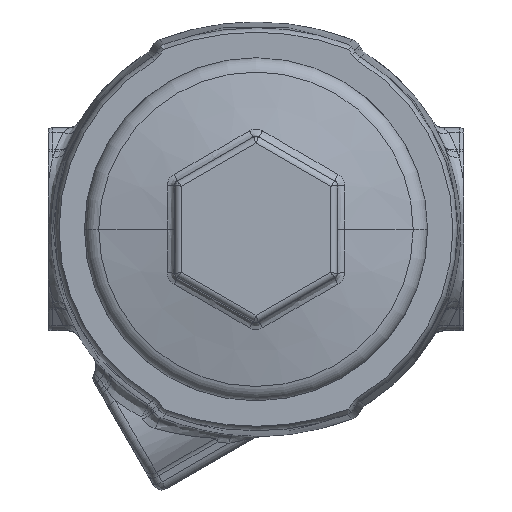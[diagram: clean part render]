
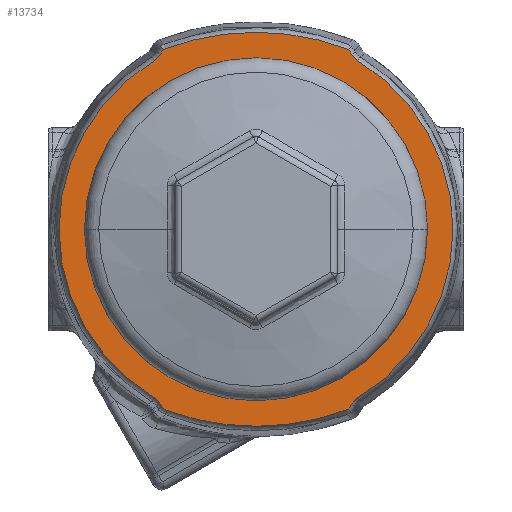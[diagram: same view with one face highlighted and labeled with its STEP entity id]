
A CAD part, front view. The second image highlights one B-rep face of the part: STEP entity #13734.
In plain terms, the highlighted planar face has unit normal (0, -1, 0).
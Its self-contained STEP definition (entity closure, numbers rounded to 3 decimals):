
#364=CARTESIAN_POINT('',(-21.171,-55.,38.775));
#365=CARTESIAN_POINT('',(-21.284,-55.,38.578));
#366=CARTESIAN_POINT('',(-21.539,-55.,38.211));
#367=CARTESIAN_POINT('',(-22.013,-55.,37.727));
#368=CARTESIAN_POINT('',(-22.375,-55.,37.464));
#369=CARTESIAN_POINT('',(-22.569,-55.,37.347));
#390=CARTESIAN_POINT('',(0.,-55.,0.));
#391=DIRECTION('',(0.,1.,0.));
#392=DIRECTION('',(0.517,0.,0.856));
#393=AXIS2_PLACEMENT_3D('',#390,#391,#392);
#398=DIRECTION('',(-0.499,0.,-0.867));
#399=VECTOR('',#398,1.237);
#400=CARTESIAN_POINT('',(21.171,-55.,-38.775));
#401=LINE('',#400,#399);
#405=CARTESIAN_POINT('',(0.,-55.,14.));
#406=DIRECTION('',(0.,1.,0.));
#407=DIRECTION('',(0.357,0.,-0.934));
#408=AXIS2_PLACEMENT_3D('',#405,#406,#407);
#413=CARTESIAN_POINT('',(0.,-55.,14.));
#414=DIRECTION('',(0.,1.,0.));
#415=DIRECTION('',(0.001,0.,-1.));
#416=AXIS2_PLACEMENT_3D('',#413,#414,#415);
#421=DIRECTION('',(-0.523,0.,0.852));
#422=VECTOR('',#421,0.554);
#423=CARTESIAN_POINT('',(-20.896,-55.,
-39.176));
#424=LINE('',#423,#422);
#428=CARTESIAN_POINT('',(0.,-55.,0.));
#429=DIRECTION('',(0.,1.,0.));
#430=DIRECTION('',(-0.516,0.,-0.856));
#431=AXIS2_PLACEMENT_3D('',#428,#429,#430);
#436=DIRECTION('',(0.499,0.,0.867));
#437=VECTOR('',#436,1.237);
#438=CARTESIAN_POINT('',(-21.171,-55.,38.775));
#439=LINE('',#438,#437);
#443=CARTESIAN_POINT('',(0.,-55.,-14.));
#444=DIRECTION('',(0.,1.,0.));
#445=DIRECTION('',(-0.357,0.,0.934));
#446=AXIS2_PLACEMENT_3D('',#443,#444,#445);
#451=CARTESIAN_POINT('',(0.,-55.,-14.));
#452=DIRECTION('',(0.,1.,0.));
#453=DIRECTION('',(0.001,0.,1.));
#454=AXIS2_PLACEMENT_3D('',#451,#452,#453);
#459=DIRECTION('',(0.499,0.,-0.867));
#460=VECTOR('',#459,1.237);
#461=CARTESIAN_POINT('',(20.554,-55.,39.847));
#462=LINE('',#461,#460);
#466=CARTESIAN_POINT('',(0.,-55.,0.));
#467=DIRECTION('',(0.,-1.,0.));
#468=DIRECTION('',(-1.,0.,0.));
#469=AXIS2_PLACEMENT_3D('',#466,#467,#468);
#474=CARTESIAN_POINT('',(0.,-55.,0.));
#475=DIRECTION('',(0.,-1.,0.));
#476=DIRECTION('',(1.,0.,0.));
#477=AXIS2_PLACEMENT_3D('',#474,#475,#476);
#506=CARTESIAN_POINT('',(22.569,-55.,37.347));
#507=CARTESIAN_POINT('',(22.375,-55.,37.464));
#508=CARTESIAN_POINT('',(22.013,-55.,37.727));
#509=CARTESIAN_POINT('',(21.539,-55.,38.211));
#510=CARTESIAN_POINT('',(21.284,-55.,38.578));
#511=CARTESIAN_POINT('',(21.171,-55.,38.775));
#3744=CARTESIAN_POINT('',(-22.529,-55.,
-37.371));
#3745=CARTESIAN_POINT('',(-22.345,-55.,
-37.482));
#3746=CARTESIAN_POINT('',(-22.002,-55.,
-37.728));
#3747=CARTESIAN_POINT('',(-21.547,-55.,
-38.18));
#3748=CARTESIAN_POINT('',(-21.298,-55.,
-38.521));
#3749=CARTESIAN_POINT('',(-21.186,-55.,
-38.704));
#3786=CARTESIAN_POINT('',(-20.896,-55.,
-39.176));
#3787=CARTESIAN_POINT('',(-20.8,-55.,
-39.331));
#3788=CARTESIAN_POINT('',(-20.582,-55.,
-39.612));
#3789=CARTESIAN_POINT('',(-20.16,-55.,
-39.956));
#3790=CARTESIAN_POINT('',(-19.841,-55.,
-40.114));
#3791=CARTESIAN_POINT('',(-19.669,-55.,
-40.177));
#3850=CARTESIAN_POINT('',(21.171,-55.,
-38.775));
#3851=CARTESIAN_POINT('',(21.284,-55.,
-38.579));
#3852=CARTESIAN_POINT('',(21.539,-55.,
-38.211));
#3853=CARTESIAN_POINT('',(22.013,-55.,
-37.727));
#3854=CARTESIAN_POINT('',(22.375,-55.,
-37.464));
#3855=CARTESIAN_POINT('',(22.569,-55.,
-37.347));
#12034=VERTEX_POINT('',#364);
#12035=VERTEX_POINT('',#369);
#12036=CARTESIAN_POINT('',(22.569,-55.,37.347));
#12037=CARTESIAN_POINT('',(22.569,-55.,-37.347));
#12038=VERTEX_POINT('',#12036);
#12039=VERTEX_POINT('',#12037);
#12040=VERTEX_POINT('',#3850);
#12041=CARTESIAN_POINT('',(20.554,-55.,
-39.847));
#12042=VERTEX_POINT('',#12041);
#12043=CARTESIAN_POINT('',(0.044,-55.,-43.637));
#12044=VERTEX_POINT('',#12043);
#12045=CARTESIAN_POINT('',(-19.669,-55.,-40.177));
#12046=VERTEX_POINT('',#12045);
#12047=VERTEX_POINT('',#3786);
#12048=CARTESIAN_POINT('',(-21.186,-55.,
-38.704));
#12049=VERTEX_POINT('',#12048);
#12050=VERTEX_POINT('',#3744);
#12051=CARTESIAN_POINT('',(-20.554,-55.,
39.847));
#12052=VERTEX_POINT('',#12051);
#12053=CARTESIAN_POINT('',(0.054,-55.,43.637));
#12054=VERTEX_POINT('',#12053);
#12055=CARTESIAN_POINT('',(20.554,-55.,39.847));
#12056=VERTEX_POINT('',#12055);
#12057=CARTESIAN_POINT('',(21.171,-55.,
38.775));
#12058=VERTEX_POINT('',#12057);
#12059=CARTESIAN_POINT('',(-37.5,-55.,0.));
#12060=CARTESIAN_POINT('',(37.5,-55.,0.));
#12061=VERTEX_POINT('',#12059);
#12062=VERTEX_POINT('',#12060);
#13692=CARTESIAN_POINT('',(0.,-55.,0.));
#13693=DIRECTION('',(0.,-1.,0.));
#13694=DIRECTION('',(-1.,0.,0.));
#13695=AXIS2_PLACEMENT_3D('',#13692,#13693,#13694);
#13696=PLANE('',#13695);
#13698=ORIENTED_EDGE('',*,*,#13697,.T.);
#13700=ORIENTED_EDGE('',*,*,#13699,.F.);
#13702=ORIENTED_EDGE('',*,*,#13701,.T.);
#13704=ORIENTED_EDGE('',*,*,#13703,.T.);
#13706=ORIENTED_EDGE('',*,*,#13705,.T.);
#13708=ORIENTED_EDGE('',*,*,#13707,.F.);
#13710=ORIENTED_EDGE('',*,*,#13709,.T.);
#13712=ORIENTED_EDGE('',*,*,#13711,.F.);
#13714=ORIENTED_EDGE('',*,*,#13713,.T.);
#13715=ORIENTED_EDGE('',*,*,#13675,.F.);
#13717=ORIENTED_EDGE('',*,*,#13716,.T.);
#13719=ORIENTED_EDGE('',*,*,#13718,.T.);
#13721=ORIENTED_EDGE('',*,*,#13720,.T.);
#13723=ORIENTED_EDGE('',*,*,#13722,.T.);
#13725=ORIENTED_EDGE('',*,*,#13724,.F.);
#13726=EDGE_LOOP('',(#13698,#13700,#13702,#13704,#13706,#13708,#13710,#13712,
#13714,#13715,#13717,#13719,#13721,#13723,#13725));
#13727=FACE_OUTER_BOUND('',#13726,.F.);
#13729=ORIENTED_EDGE('',*,*,#13728,.T.);
#13731=ORIENTED_EDGE('',*,*,#13730,.T.);
#13732=EDGE_LOOP('',(#13729,#13731));
#13733=FACE_BOUND('',#13732,.F.);
#370=B_SPLINE_CURVE_WITH_KNOTS('',3,(#364,#365,#366,#367,#368,#369),
.UNSPECIFIED.,.F.,.F.,(4,1,1,4),(0.,0.333,0.667,1.),
.UNSPECIFIED.);
#394=CIRCLE('',#393,43.637);
#409=CIRCLE('',#408,57.637);
#417=CIRCLE('',#416,57.637);
#432=CIRCLE('',#431,43.637);
#447=CIRCLE('',#446,57.637);
#455=CIRCLE('',#454,57.637);
#470=CIRCLE('',#469,37.5);
#478=CIRCLE('',#477,37.5);
#512=B_SPLINE_CURVE_WITH_KNOTS('',3,(#506,#507,#508,#509,#510,#511),
.UNSPECIFIED.,.F.,.F.,(4,1,1,4),(0.,0.333,0.667,1.),
.UNSPECIFIED.);
#3750=B_SPLINE_CURVE_WITH_KNOTS('',3,(#3744,#3745,#3746,#3747,#3748,#3749),
.UNSPECIFIED.,.F.,.F.,(4,1,1,4),(0.,0.333,0.667,1.),
.UNSPECIFIED.);
#3792=B_SPLINE_CURVE_WITH_KNOTS('',3,(#3786,#3787,#3788,#3789,#3790,#3791),
.UNSPECIFIED.,.F.,.F.,(4,1,1,4),(0.,0.333,0.667,1.),
.UNSPECIFIED.);
#3856=B_SPLINE_CURVE_WITH_KNOTS('',3,(#3850,#3851,#3852,#3853,#3854,#3855),
.UNSPECIFIED.,.F.,.F.,(4,1,1,4),(0.,0.333,0.667,1.),
.UNSPECIFIED.);
#13675=EDGE_CURVE('',#12034,#12035,#370,.T.);
#13697=EDGE_CURVE('',#12038,#12039,#394,.T.);
#13699=EDGE_CURVE('',#12040,#12039,#3856,.T.);
#13701=EDGE_CURVE('',#12040,#12042,#401,.T.);
#13703=EDGE_CURVE('',#12042,#12044,#409,.T.);
#13705=EDGE_CURVE('',#12044,#12046,#417,.T.);
#13707=EDGE_CURVE('',#12047,#12046,#3792,.T.);
#13709=EDGE_CURVE('',#12047,#12049,#424,.T.);
#13711=EDGE_CURVE('',#12050,#12049,#3750,.T.);
#13713=EDGE_CURVE('',#12050,#12035,#432,.T.);
#13716=EDGE_CURVE('',#12034,#12052,#439,.T.);
#13718=EDGE_CURVE('',#12052,#12054,#447,.T.);
#13720=EDGE_CURVE('',#12054,#12056,#455,.T.);
#13722=EDGE_CURVE('',#12056,#12058,#462,.T.);
#13724=EDGE_CURVE('',#12038,#12058,#512,.T.);
#13728=EDGE_CURVE('',#12061,#12062,#470,.T.);
#13730=EDGE_CURVE('',#12062,#12061,#478,.T.);
#13734=ADVANCED_FACE('',(#13727,#13733),#13696,.T.);
